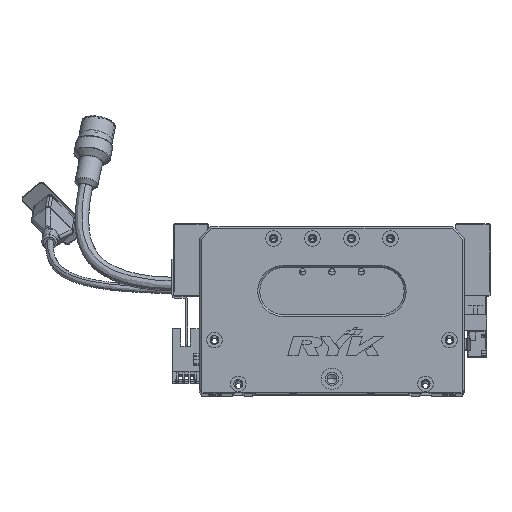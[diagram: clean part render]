
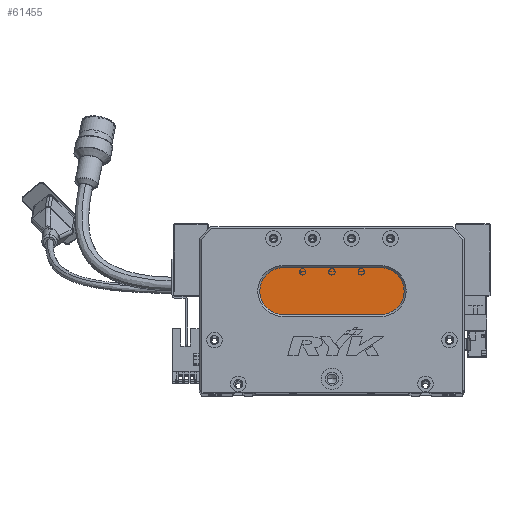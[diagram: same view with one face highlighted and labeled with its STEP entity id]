
A CAD part, top view. The second image highlights one B-rep face of the part: STEP entity #61455.
In plain terms, the highlighted planar face has unit normal (0, 0, 1) as drawn and (0, 0, -1) by its records, which use the part's own axes.
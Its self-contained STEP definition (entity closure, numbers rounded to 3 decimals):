
#2305 = DIRECTION ( 'NONE',  ( 0., 0., -1. ) ) ;
#4871 = VECTOR ( 'NONE', #41587, 1000. ) ;
#8260 = CARTESIAN_POINT ( 'NONE',  ( 93., 40., 13. ) ) ;
#12166 = VERTEX_POINT ( 'NONE', #8260 ) ;
#16788 = DIRECTION ( 'NONE',  ( 1., 0., 0. ) ) ;
#17155 = ORIENTED_EDGE ( 'NONE', *, *, #21062, .T. ) ;
#17207 = LINE ( 'NONE', #22527, #4871 ) ;
#18593 = ORIENTED_EDGE ( 'NONE', *, *, #23973, .T. ) ;
#20558 = AXIS2_PLACEMENT_3D ( 'NONE', #45960, #57614, #76449 ) ;
#21062 = EDGE_CURVE ( 'NONE', #12166, #62046, #17207, .T. ) ;
#22527 = CARTESIAN_POINT ( 'NONE',  ( 93., 40., 13. ) ) ;
#23027 = VERTEX_POINT ( 'NONE', #24557 ) ;
#23973 = EDGE_CURVE ( 'NONE', #62046, #78548, #44291, .T. ) ;
#24557 = CARTESIAN_POINT ( 'NONE',  ( 93., 64., 13. ) ) ;
#26717 = DIRECTION ( 'NONE',  ( 0., 0., -1. ) ) ;
#27461 = AXIS2_PLACEMENT_3D ( 'NONE', #38603, #2305, #56857 ) ;
#38603 = CARTESIAN_POINT ( 'NONE',  ( 93., 52., 13. ) ) ;
#39574 = CARTESIAN_POINT ( 'NONE',  ( 43., 64., 13. ) ) ;
#39829 = FACE_OUTER_BOUND ( 'NONE', #45330, .T. ) ;
#40310 = DIRECTION ( 'NONE',  ( -1., 0., 0. ) ) ;
#41587 = DIRECTION ( 'NONE',  ( -1., 0., 0. ) ) ;
#43987 = VECTOR ( 'NONE', #16788, 1000. ) ;
#44291 = CIRCLE ( 'NONE', #53291, 12. ) ;
#45330 = EDGE_LOOP ( 'NONE', ( #66981, #17155, #18593, #47479, #55084 ) ) ;
#45960 = CARTESIAN_POINT ( 'NONE',  ( 93., 52., 13. ) ) ;
#46521 = AXIS2_PLACEMENT_3D ( 'NONE', #51899, #26717, #69172 ) ;
#47479 = ORIENTED_EDGE ( 'NONE', *, *, #76312, .T. ) ;
#47569 = CIRCLE ( 'NONE', #46521, 12. ) ;
#49112 = EDGE_CURVE ( 'NONE', #23027, #12166, #57498, .T. ) ;
#51899 = CARTESIAN_POINT ( 'NONE',  ( 43., 52., 13. ) ) ;
#53272 = DIRECTION ( 'NONE',  ( 0., 0., -1. ) ) ;
#53291 = AXIS2_PLACEMENT_3D ( 'NONE', #59378, #53272, #40310 ) ;
#53595 = VERTEX_POINT ( 'NONE', #39574 ) ;
#55084 = ORIENTED_EDGE ( 'NONE', *, *, #72009, .T. ) ;
#56606 = PLANE ( 'NONE',  #27461 ) ;
#56857 = DIRECTION ( 'NONE',  ( -1., 0., 0. ) ) ;
#57498 = CIRCLE ( 'NONE', #20558, 12. ) ;
#57614 = DIRECTION ( 'NONE',  ( 0., 0., -1. ) ) ;
#59378 = CARTESIAN_POINT ( 'NONE',  ( 43., 52., 13. ) ) ;
#60121 = LINE ( 'NONE', #76444, #43987 ) ;
#60661 = CARTESIAN_POINT ( 'NONE',  ( 31., 52., 13. ) ) ;
#61455 = ADVANCED_FACE ( 'NONE', ( #39829 ), #56606, .T. ) ;
#62046 = VERTEX_POINT ( 'NONE', #76047 ) ;
#66981 = ORIENTED_EDGE ( 'NONE', *, *, #49112, .T. ) ;
#69172 = DIRECTION ( 'NONE',  ( -1., 0., 0. ) ) ;
#72009 = EDGE_CURVE ( 'NONE', #53595, #23027, #60121, .T. ) ;
#76047 = CARTESIAN_POINT ( 'NONE',  ( 43., 40., 13. ) ) ;
#76312 = EDGE_CURVE ( 'NONE', #78548, #53595, #47569, .T. ) ;
#76444 = CARTESIAN_POINT ( 'NONE',  ( 93., 64., 13. ) ) ;
#76449 = DIRECTION ( 'NONE',  ( -1., 0., 0. ) ) ;
#78548 = VERTEX_POINT ( 'NONE', #60661 ) ;
